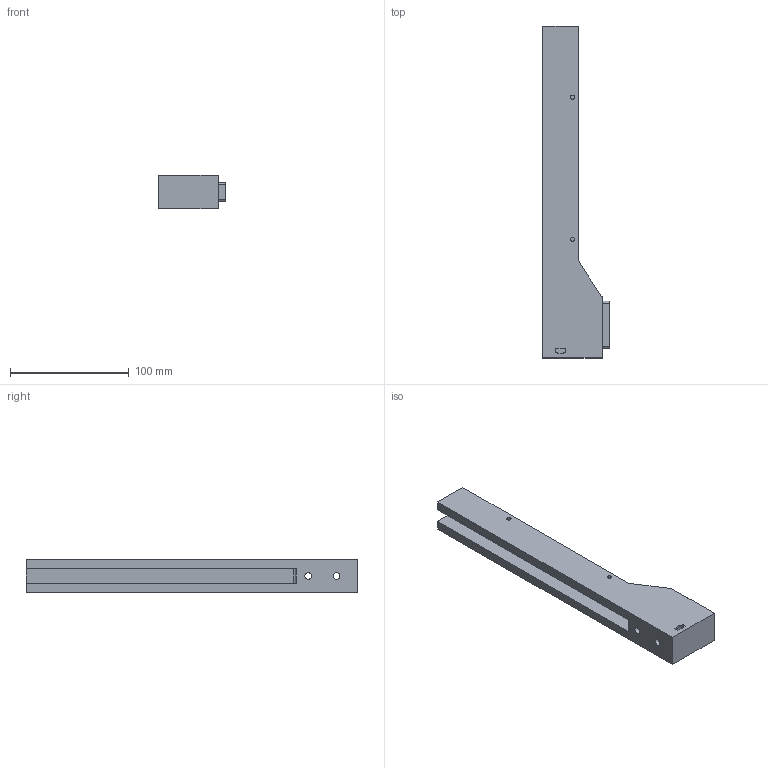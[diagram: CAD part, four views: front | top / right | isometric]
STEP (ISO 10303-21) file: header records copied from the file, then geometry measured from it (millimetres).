
FILE_DESCRIPTION(('Open CASCADE Model'),'2;1');
FILE_NAME('Open CASCADE Shape Model','2026-10-02T21:09:01',('Author'),( 'Open CASCADE'),'Open CASCADE STEP processor 7.8','Open CASCADE 7.8' ,'Unknown');
FILE_SCHEMA(('AUTOMOTIVE_DESIGN { 1 0 10303 214 1 1 1 1 }'));
Length unit declared in the file: millimetre
Products named in the file (1): Open CASCADE STEP translator 7.8 2
Bounding box: 56 x 280 x 28 mm (x, y, z)
Volume: 207326.8 mm3; surface area: 52105 mm2
Topology: 1 solids, 1 shells, 56 faces, 146 edges, 94 vertices
Faces by surface type: plane 45, cylinder 11
Full cylindrical faces by diameter (mm): 3.5 x2, 5.6 x2, 9.2 x1
Entity records: 3578 total; most frequent: CARTESIAN_POINT 653, DIRECTION 528, LINE 326, VECTOR 326, ORIENTED_EDGE 292, PCURVE 292, DEFINITIONAL_REPRESENTATION 292, EDGE_CURVE 146
